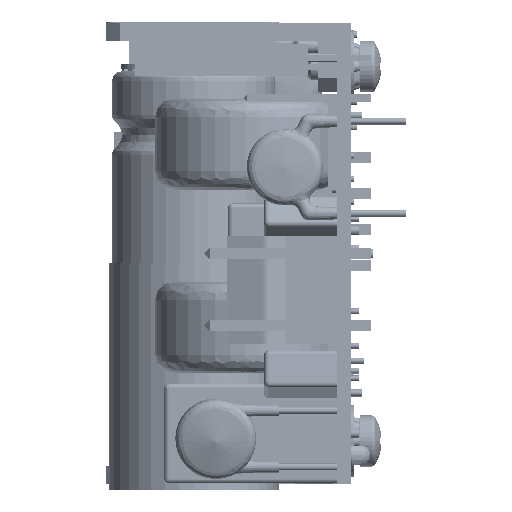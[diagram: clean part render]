
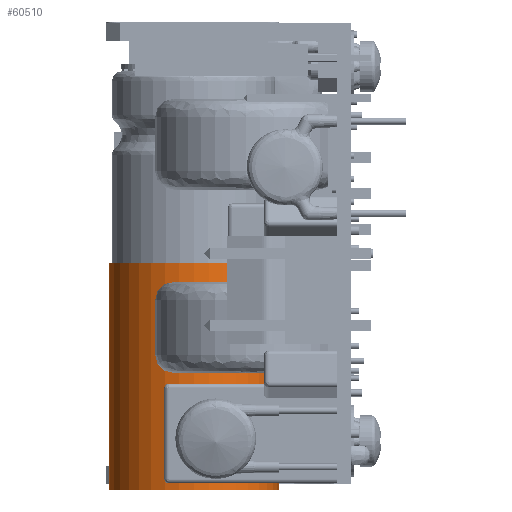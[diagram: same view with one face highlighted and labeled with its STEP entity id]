
A CAD part, left-side view. The second image highlights one B-rep face of the part: STEP entity #60510.
In plain terms, the highlighted cylindrical face has radius 9.347 mm (diameter 18.694 mm), a partial arc.
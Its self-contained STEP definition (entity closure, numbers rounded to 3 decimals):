
#7735 = VERTEX_POINT ( 'NONE', #24216 ) ;
#7737 = VERTEX_POINT ( 'NONE', #24217 ) ;
#7745 = VERTEX_POINT ( 'NONE', #24221 ) ;
#7746 = VERTEX_POINT ( 'NONE', #24222 ) ;
#9775 = ORIENTED_EDGE ( 'NONE', *, *, #9823, .F. ) ;
#9776 = ORIENTED_EDGE ( 'NONE', *, *, #9827, .F. ) ;
#9777 = ORIENTED_EDGE ( 'NONE', *, *, #9825, .T. ) ;
#9778 = ORIENTED_EDGE ( 'NONE', *, *, #9826, .F. ) ;
#9823 = EDGE_CURVE ( 'NONE', #7735, #7746, #20267, .T. ) ;
#9825 = EDGE_CURVE ( 'NONE', #7737, #7745, #20273, .T. ) ;
#9826 = EDGE_CURVE ( 'NONE', #7746, #7745, #20277, .T. ) ;
#9827 = EDGE_CURVE ( 'NONE', #7737, #7735, #20284, .T. ) ;
#20267 = LINE ( 'NONE', #28501, #20275 ) ;
#20273 = LINE ( 'NONE', #28507, #20282 ) ;
#20275 = VECTOR ( 'NONE', #28506, 1000. ) ;
#20277 = CIRCLE ( 'NONE', #22535, 9.347 ) ;
#20282 = VECTOR ( 'NONE', #28505, 1000. ) ;
#20284 = CIRCLE ( 'NONE', #22536, 9.347 ) ;
#22535 = AXIS2_PLACEMENT_3D ( 'NONE', #28511, #28512, #28513 ) ;
#22536 = AXIS2_PLACEMENT_3D ( 'NONE', #28514, #28515, #28516 ) ;
#24216 = CARTESIAN_POINT ( 'NONE',  ( 9.347, 0., 24.994 ) ) ;
#24217 = CARTESIAN_POINT ( 'NONE',  ( -9.347, 0., 24.994 ) ) ;
#24221 = CARTESIAN_POINT ( 'NONE',  ( -9.347, 0., 0. ) ) ;
#24222 = CARTESIAN_POINT ( 'NONE',  ( 9.347, 0., 0. ) ) ;
#28501 = CARTESIAN_POINT ( 'NONE',  ( 9.347, 0., 24.994 ) ) ;
#28505 = DIRECTION ( 'NONE',  ( 0., 0., -1. ) ) ;
#28506 = DIRECTION ( 'NONE',  ( 0., 0., -1. ) ) ;
#28507 = CARTESIAN_POINT ( 'NONE',  ( -9.347, 0., 24.994 ) ) ;
#28511 = CARTESIAN_POINT ( 'NONE',  ( 0., 0., 0. ) ) ;
#28512 = DIRECTION ( 'NONE',  ( 0., 0., -1. ) ) ;
#28513 = DIRECTION ( 'NONE',  ( -1., 0., 0. ) ) ;
#28514 = CARTESIAN_POINT ( 'NONE',  ( 0., 0., 24.994 ) ) ;
#28515 = DIRECTION ( 'NONE',  ( 0., 0., 1. ) ) ;
#28516 = DIRECTION ( 'NONE',  ( -1., 0., 0. ) ) ;
#57476 = FACE_OUTER_BOUND ( 'NONE', #67168, .T. ) ;
#57483 = CYLINDRICAL_SURFACE ( 'NONE', #57902, 9.347 ) ;
#57902 = AXIS2_PLACEMENT_3D ( 'NONE', #60455, #60446, #60450 ) ;
#60446 = DIRECTION ( 'NONE',  ( 0., 0., -1. ) ) ;
#60450 = DIRECTION ( 'NONE',  ( -1., 0., 0. ) ) ;
#60455 = CARTESIAN_POINT ( 'NONE',  ( 0., 0., 24.994 ) ) ;
#60510 = ADVANCED_FACE ( 'NONE', ( #57476 ), #57483, .T. ) ;
#67168 = EDGE_LOOP ( 'NONE', ( #9775, #9776, #9777, #9778 ) ) ;
